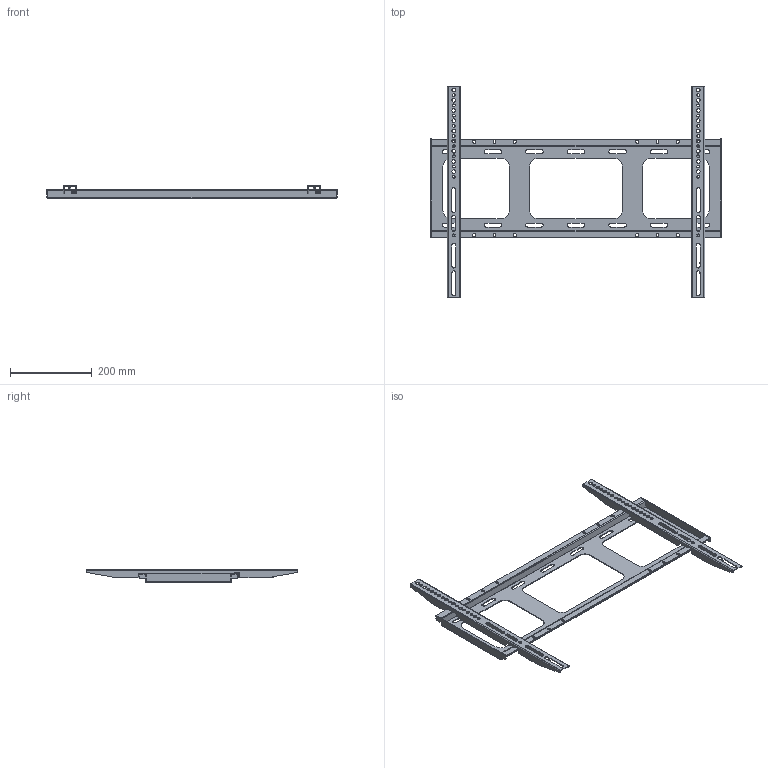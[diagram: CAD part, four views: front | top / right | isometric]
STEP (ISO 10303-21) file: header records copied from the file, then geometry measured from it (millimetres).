
FILE_DESCRIPTION((''),'2;1');
FILE_NAME('55-75_BIGUA_ASSY_V2__ASM','2025-02-19T',('As06888'),(''),'CREO PARAMETRIC BY PTC INC, 2015080','CREO PARAMETRIC BY PTC INC, 2015080','');
FILE_SCHEMA(('AUTOMOTIVE_DESIGN { 1 0 10303 214 1 1 1 1 }'));
Length unit declared in the file: millimetre
Products named in the file (6): 55-75_SLZJ_ASM_4_1_; BSO-M4-10_1_1_; 55-75_SLZJ_ASM_ASM_2_ASM_1__ASM; SCREW_M5X100_1_1_; 55-75_HLZJ-SPT_10_1_; 55-75_BIGUA_ASSY_V2__ASM
Assembly tree (7 placements, depth 3):
  55-75_BIGUA_ASSY_V2__ASM
    55-75_SLZJ_ASM_ASM_2_ASM_1__ASM  x2
      55-75_SLZJ_ASM_4_1_
      BSO-M4-10_1_1_
    SCREW_M5X100_1_1_  x2
    55-75_HLZJ-SPT_10_1_
Bounding box: 712 x 520 x 31.5 mm (x, y, z)
Volume: 356303.6 mm3; surface area: 377647.2 mm2
Topology: 7 solids, 9 shells, 1180 faces, 3324 edges, 2166 vertices
Faces by surface type: cylinder 586, plane 498, bspline 84, cone 8, torus 4
Entity records: 38186 total; most frequent: CARTESIAN_POINT 16720, ORIENTED_EDGE 4448, DIRECTION 3714, EDGE_CURVE 2226, VERTEX_POINT 1451, VECTOR 1450, LINE 1450, AXIS2_PLACEMENT_3D 1132
